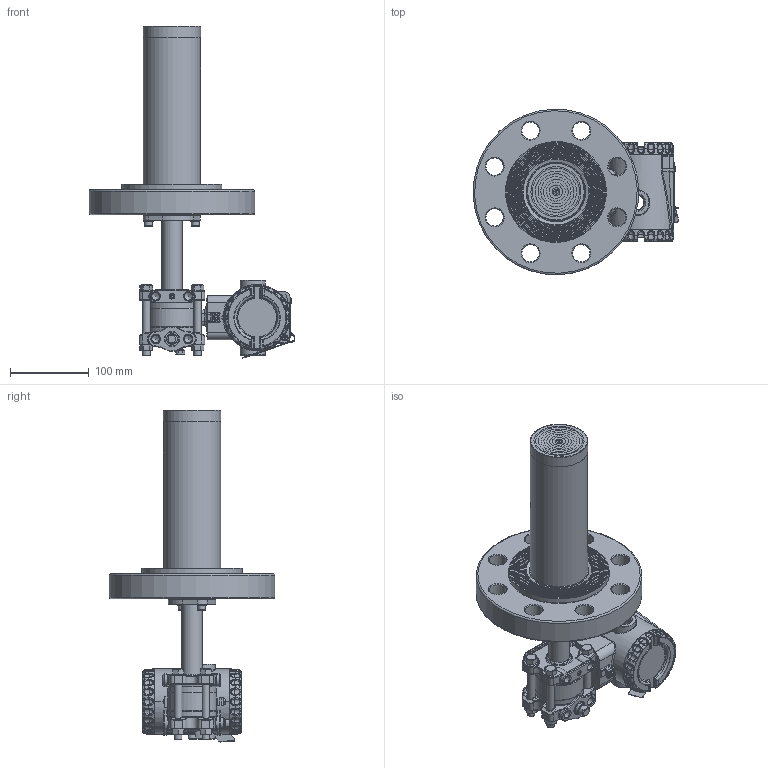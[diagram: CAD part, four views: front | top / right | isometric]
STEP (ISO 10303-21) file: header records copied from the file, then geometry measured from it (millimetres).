
FILE_DESCRIPTION(/* description */ (''),/* implementation_level */ '2;1');
FILE_NAME(/* name */ 'F:\Area\Desenvolvimento_2\Projects\Sensor\projetos\LD400-3d\dimensionais 3D clientes\LD400L\LD400L 3-600 RF ext 200 ref 1-4NPT purga acima.stp',/* time_stamp */ '2023-02-23T16:31:17-03:00',/* author */ ('inventor02'),/* organization */ (''),/* preprocessor_version */ 'ST-DEVELOPER v17',/* originating_system */ 'Autodesk Inventor 2019',/* authorisation */ '');
FILE_SCHEMA (('CONFIG_CONTROL_DESIGN'));
Products named in the file (41): LD30XL 3-600 RF ext 200 ref 1-4NPT purga acima; 204-0301-L-3 600 RF ext 200 purga acima; nivel fx3 com baixa diferencial 1-4NPT purga acima; involucro fx0-3 apos a usinagem final; flange diferencial std purga; 101-C-7484-01 flange selo nivel VR; 201-A-0504-tubo união teste 1; bujao 1-4NPT; Sangria; Porca 3-8 x 16 UNC; Paraf. 3-8 x 16 UNC; adaptação tubo x flanges 1-1-2 a 4pol; 101-B-0161-anel cortado do tubo - teste1; 101-B-0162-flange fixação tubo; ANSI B18.3.1M - M6x1 x 16; DIN 127 - A 6; flange 3 600 ext 200; 101-C-0129-12; 096-B-0199-14; 101-B-7701-02 ext 3-200; Carcaça 400 com tampas e plaqueta sem letras; 101-D-0845-05 carcaça LD400 sem letras; 101-B-3614-03-tampa 400 sem letras; Tampa visor 400 montada sem letras; 101-B-3612-05 tampa visor 400 sem letras; 101-A-6107; oring 2034; 00034775-0; WHW_250; DIN 915 - M6 x 10; Chapa aterramento externo; 201-A-1771-02 inserto terra recartilhado; AS 1969 - ST4,2; ISO 1207 - M4 x 8; ANSI B18.3.1M - M4x0,7 x 8; Subconjunto plaqueta 400; plaqueta 400 em branco; Parafuso da Plaqueta; Rebite da Plaqueta; 096-A-0169-03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
Assembly tree (50 placements, depth 4):
  LD30XL 3-600 RF ext 200 ref 1-4NPT purga acima
    204-0301-L-3 600 RF ext 200 purga acima
      nivel fx3 com baixa diferencial 1-4NPT purga acima
        involucro fx0-3 apos a usinagem final
        flange diferencial std purga
        101-C-7484-01 flange selo nivel VR
        201-A-0504-tubo união teste 1
        DIN 915 - M6 x 10
        bujao 1-4NPT
        Sangria
        Porca 3-8 x 16 UNC  x4
        Paraf. 3-8 x 16 UNC  x4
      adaptação tubo x flanges 1-1-2 a 4pol
        101-B-0161-anel cortado do tubo - teste1
        101-B-0162-flange fixação tubo
        ANSI B18.3.1M - M6x1 x 16  x2
        DIN 127 - A 6  x2
      flange 3 600 ext 200
        101-C-0129-12
        096-B-0199-14
        101-B-7701-02 ext 3-200
    Carcaça 400 com tampas e plaqueta sem letras
      101-D-0845-05 carcaça LD400 sem letras
      101-B-3614-03-tampa 400 sem letras
      Tampa visor 400 montada sem letras
        101-B-3612-05 tampa visor 400 sem letras
        101-A-6107
        oring 2034
        00034775-0
        WHW_250
      DIN 915 - M6 x 10
      Chapa aterramento externo
      201-A-1771-02 inserto terra recartilhado
      AS 1969 - ST4,2
      ISO 1207 - M4 x 8
      ANSI B18.3.1M - M4x0,7 x 8  x2
      Subconjunto plaqueta 400
        plaqueta 400 em branco
        Parafuso da Plaqueta
        Rebite da Plaqueta
        096-A-0169-03
        101-A-0502-01
Bounding box: 260.65 x 209.8 x 420.72 mm (x, y, z)
Volume: 1884803.4 mm3; surface area: 460155.8 mm2
Topology: 43 solids, 43 shells, 2809 faces, 6797 edges, 4087 vertices
Faces by surface type: plane 739, cylinder 668, bspline 605, torus 491, cone 230, sphere 76
Full cylindrical faces by diameter (mm): 2 x4, 2.1 x1, 2.2 x1, 2.459 x3, 2.5 x1, 2.7 x1, 2.8 x1, 3 x4, 3.242 x3, 3.5 x1, 3.571 x1, 4 x5, 4.3 x2, 4.4 x1, 4.917 x4, 5 x1, 5.5 x3, 6 x6, 6.1 x2, 6.2 x1, 6.647 x1, 7 x5, 7.6 x2, 7.798 x4, 8 x1, 9.525 x4, 9.728 x6, 10 x2, 10.5 x8, 10.719 x2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
Entity records: 99875 total; most frequent: CARTESIAN_POINT 37281, DIRECTION 12942, ORIENTED_EDGE 12834, EDGE_CURVE 6417, AXIS2_PLACEMENT_3D 5554, VERTEX_POINT 3893, CIRCLE 3233, EDGE_LOOP 2870
